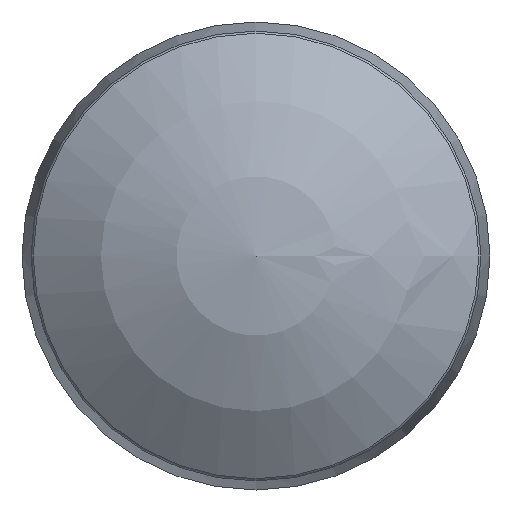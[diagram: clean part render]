
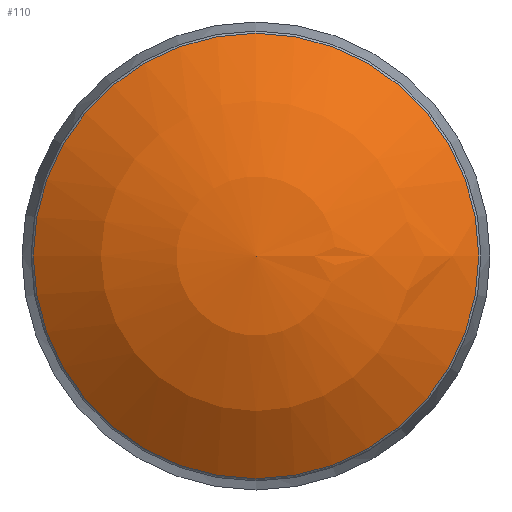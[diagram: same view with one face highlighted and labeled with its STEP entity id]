
A CAD part, front view. The second image highlights one B-rep face of the part: STEP entity #110.
In plain terms, the highlighted spherical face has radius 11.902 mm.
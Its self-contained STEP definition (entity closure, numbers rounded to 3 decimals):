
#102=SPHERICAL_SURFACE('',#231,11.902);
#110=ADVANCED_FACE('',(#125),#102,.T.);
#125=FACE_OUTER_BOUND('',#151,.T.);
#151=EDGE_LOOP('',(#173));
#173=ORIENTED_EDGE('',*,*,#204,.T.);
#193=VERTEX_POINT('',#307);
#204=EDGE_CURVE('',#193,#193,#215,.T.);
#215=CIRCLE('',#230,7.52);
#230=AXIS2_PLACEMENT_3D('',#306,#262,#263);
#231=AXIS2_PLACEMENT_3D('',#308,#264,#265);
#262=DIRECTION('',(0.,-1.,0.));
#263=DIRECTION('',(0.,0.,1.));
#264=DIRECTION('',(0.,1.,0.));
#265=DIRECTION('',(1.,0.,0.));
#306=CARTESIAN_POINT('',(629.5,0.977,-279.983));
#307=CARTESIAN_POINT('',(629.5,0.977,-272.463));
#308=CARTESIAN_POINT('',(629.5,10.202,-279.983));
